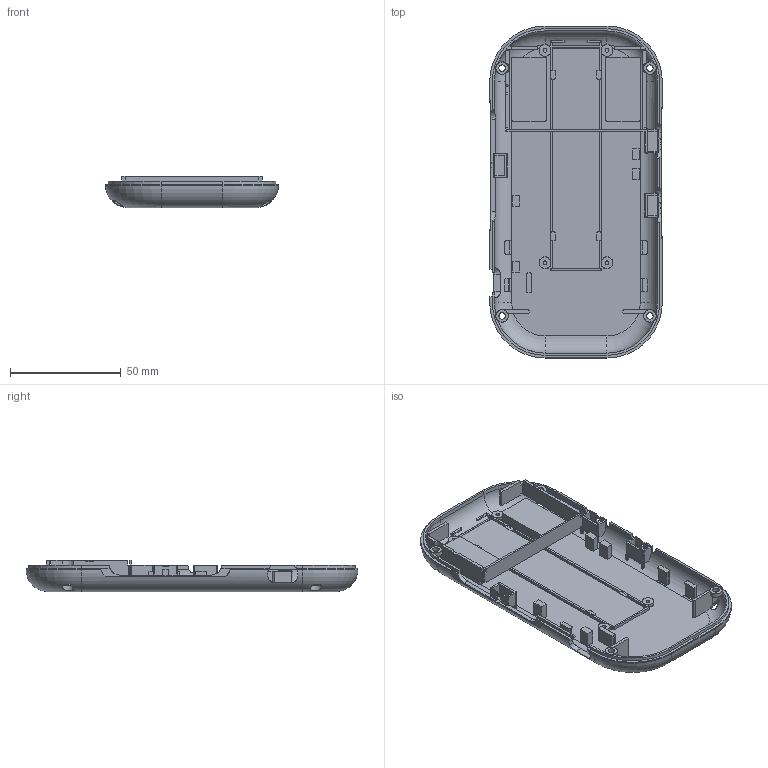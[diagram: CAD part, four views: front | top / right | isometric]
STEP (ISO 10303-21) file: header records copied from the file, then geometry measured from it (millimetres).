
FILE_DESCRIPTION(/* description */ (''),/* implementation_level */ '2;1');
FILE_NAME(/* name */ 'C27_R2_02_Back_Shell_Chalk.step',/* time_stamp */ '2026-09-10T13:08:41-07:00',/* author */ (''),/* organization */ (''),/* preprocessor_version */ 'ST-DEVELOPER v20.1',/* originating_system */ 'Autodesk Translation Framework v15.8.0.0',/* authorisation */ '');
FILE_SCHEMA (('AUTOMOTIVE_DESIGN { 1 0 10303 214 3 1 1 }'));
Length unit declared in the file: millimetre
Products named in the file (1): 2026-09-10-13-08-41-061
Bounding box: 78 x 150 x 14.15 mm (x, y, z)
Volume: 33535.8 mm3; surface area: 34901.4 mm2
Topology: 1 solids, 1 shells, 1300 faces, 3716 edges, 2458 vertices
Faces by surface type: plane 639, bspline 352, cylinder 289, cone 12, torus 8
Full cylindrical faces by diameter (mm): 1.7 x4, 2.9 x4
Entity records: 47784 total; most frequent: CARTESIAN_POINT 15819, ORIENTED_EDGE 7432, DIRECTION 5427, EDGE_CURVE 3716, VERTEX_POINT 2458, LINE 2183, VECTOR 2183, AXIS2_PLACEMENT_3D 1622
